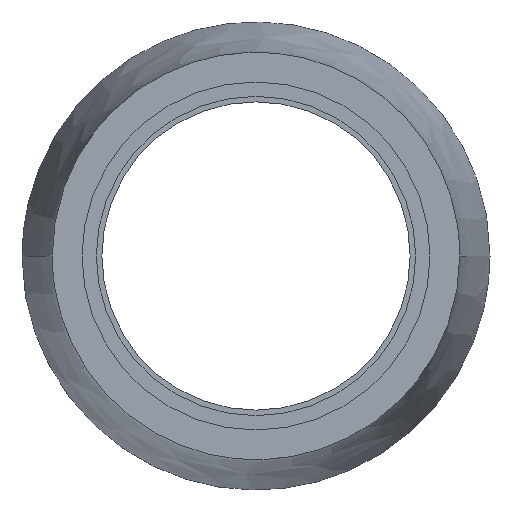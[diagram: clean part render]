
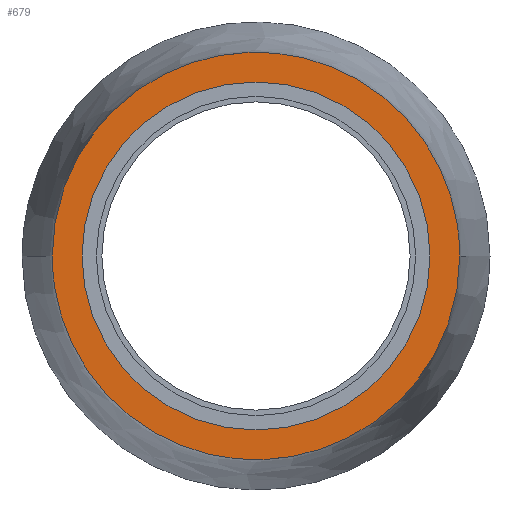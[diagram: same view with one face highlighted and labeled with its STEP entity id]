
A CAD part, front view. The second image highlights one B-rep face of the part: STEP entity #679.
In plain terms, the highlighted planar face has unit normal (0, -1, 0).
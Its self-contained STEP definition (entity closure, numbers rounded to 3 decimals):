
#24 = CARTESIAN_POINT ( 'NONE',  ( 625.602, 180.253, 0. ) ) ;
#35 = CARTESIAN_POINT ( 'NONE',  ( 625.232, 180.253, -18.87 ) ) ;
#43 = CARTESIAN_POINT ( 'NONE',  ( 644.102, 180.253, 0. ) ) ;
#55 = CARTESIAN_POINT ( 'NONE',  ( 662.602, 180.253, 0. ) ) ;
#95 = DIRECTION ( 'NONE',  ( 0., 0., -1. ) ) ;
#104 = EDGE_CURVE ( 'NONE', #534, #427, #361, .T. ) ;
#133 = CARTESIAN_POINT ( 'NONE',  ( 662.602, 180.253, 0. ) ) ;
#195 = AXIS2_PLACEMENT_3D ( 'NONE', #199, #337, #491 ) ;
#199 = CARTESIAN_POINT ( 'NONE',  ( 644.102, 180.253, 0. ) ) ;
#225 = ORIENTED_EDGE ( 'NONE', *, *, #571, .F. ) ;
#316 = EDGE_LOOP ( 'NONE', ( #509, #225 ) ) ;
#326 = CARTESIAN_POINT ( 'NONE',  ( 644.102, 180.253, 18.5 ) ) ;
#332 = AXIS2_PLACEMENT_3D ( 'NONE', #43, #527, #608 ) ;
#336 =( BOUNDED_CURVE ( )  B_SPLINE_CURVE ( 2, ( #550, #342, #714, #411, #406 ),
 .UNSPECIFIED., .F., .T. ) 
 B_SPLINE_CURVE_WITH_KNOTS ( ( 3, 2, 3 ),
 ( 0., 0.029, 0.058 ),
 .UNSPECIFIED. ) 
 CURVE ( )  GEOMETRIC_REPRESENTATION_ITEM ( )  RATIONAL_B_SPLINE_CURVE ( ( 1., 0.707, 1., 0.707, 1. ) ) 
 REPRESENTATION_ITEM ( '' )  );
#337 = DIRECTION ( 'NONE',  ( 0., 1., 0. ) ) ;
#342 = CARTESIAN_POINT ( 'NONE',  ( 662.602, 180.253, -18.5 ) ) ;
#361 =( BOUNDED_CURVE ( )  B_SPLINE_CURVE ( 2, ( #784, #772, #326, #614, #55 ),
 .UNSPECIFIED., .F., .T. ) 
 B_SPLINE_CURVE_WITH_KNOTS ( ( 3, 2, 3 ),
 ( 0., 0.029, 0.058 ),
 .UNSPECIFIED. ) 
 CURVE ( )  GEOMETRIC_REPRESENTATION_ITEM ( )  RATIONAL_B_SPLINE_CURVE ( ( 1., 0.707, 1., 0.707, 1. ) ) 
 REPRESENTATION_ITEM ( '' )  );
#397 = PLANE ( 'NONE',  #868 ) ;
#406 = CARTESIAN_POINT ( 'NONE',  ( 625.602, 180.253, 0. ) ) ;
#411 = CARTESIAN_POINT ( 'NONE',  ( 625.602, 180.253, -18.5 ) ) ;
#427 = VERTEX_POINT ( 'NONE', #133 ) ;
#442 = EDGE_LOOP ( 'NONE', ( #646, #569 ) ) ;
#491 = DIRECTION ( 'NONE',  ( 0., 0., -1. ) ) ;
#505 = CARTESIAN_POINT ( 'NONE',  ( 644.102, 180.253, -15. ) ) ;
#509 = ORIENTED_EDGE ( 'NONE', *, *, #104, .F. ) ;
#519 = CARTESIAN_POINT ( 'NONE',  ( 644.102, 180.253, 15. ) ) ;
#520 = EDGE_CURVE ( 'NONE', #933, #879, #924, .T. ) ;
#527 = DIRECTION ( 'NONE',  ( 0., 1., 0. ) ) ;
#534 = VERTEX_POINT ( 'NONE', #24 ) ;
#541 = EDGE_CURVE ( 'NONE', #879, #933, #823, .T. ) ;
#550 = CARTESIAN_POINT ( 'NONE',  ( 662.602, 180.253, 0. ) ) ;
#569 = ORIENTED_EDGE ( 'NONE', *, *, #520, .T. ) ;
#571 = EDGE_CURVE ( 'NONE', #427, #534, #336, .T. ) ;
#608 = DIRECTION ( 'NONE',  ( 0., 0., -1. ) ) ;
#614 = CARTESIAN_POINT ( 'NONE',  ( 662.602, 180.253, 18.5 ) ) ;
#646 = ORIENTED_EDGE ( 'NONE', *, *, #541, .T. ) ;
#676 = DIRECTION ( 'NONE',  ( 0., -1., 0. ) ) ;
#679 = ADVANCED_FACE ( 'NONE', ( #826, #829 ), #397, .T. ) ;
#714 = CARTESIAN_POINT ( 'NONE',  ( 644.102, 180.253, -18.5 ) ) ;
#772 = CARTESIAN_POINT ( 'NONE',  ( 625.602, 180.253, 18.5 ) ) ;
#784 = CARTESIAN_POINT ( 'NONE',  ( 625.602, 180.253, 0. ) ) ;
#823 = CIRCLE ( 'NONE', #195, 15. ) ;
#826 = FACE_BOUND ( 'NONE', #442, .T. ) ;
#829 = FACE_OUTER_BOUND ( 'NONE', #316, .T. ) ;
#868 = AXIS2_PLACEMENT_3D ( 'NONE', #35, #676, #95 ) ;
#879 = VERTEX_POINT ( 'NONE', #505 ) ;
#924 = CIRCLE ( 'NONE', #332, 15. ) ;
#933 = VERTEX_POINT ( 'NONE', #519 ) ;
